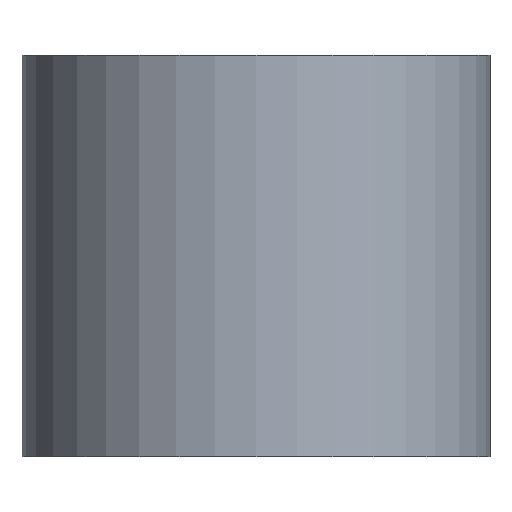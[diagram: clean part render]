
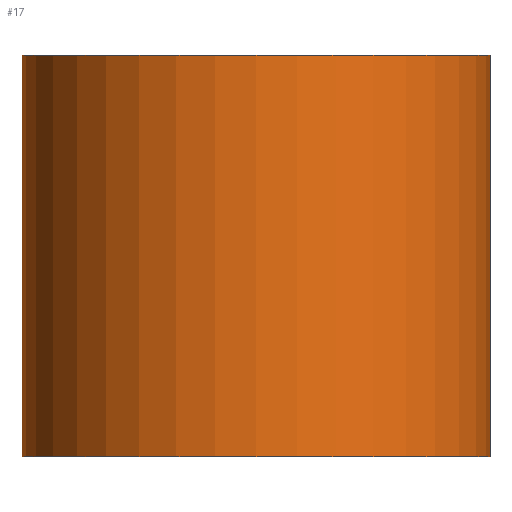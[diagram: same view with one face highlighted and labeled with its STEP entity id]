
A CAD part, front view. The second image highlights one B-rep face of the part: STEP entity #17.
In plain terms, the highlighted cylindrical face has radius 3.5 mm (diameter 7 mm), a full revolution.
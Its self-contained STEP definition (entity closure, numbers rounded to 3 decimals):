
#17 = ADVANCED_FACE('',(#18),#31,.T.);
#18 = FACE_BOUND('',#19,.T.);
#19 = EDGE_LOOP('',(#20,#54,#77,#104));
#20 = ORIENTED_EDGE('',*,*,#21,.F.);
#21 = EDGE_CURVE('',#22,#22,#24,.T.);
#22 = VERTEX_POINT('',#23);
#23 = CARTESIAN_POINT('',(3.5,0.,6.));
#24 = SURFACE_CURVE('',#25,(#30,#42),.PCURVE_S1.);
#25 = CIRCLE('',#26,3.5);
#26 = AXIS2_PLACEMENT_3D('',#27,#28,#29);
#27 = CARTESIAN_POINT('',(0.,0.,6.));
#28 = DIRECTION('',(0.,0.,1.));
#29 = DIRECTION('',(1.,0.,-0.));
#30 = PCURVE('',#31,#36);
#31 = CYLINDRICAL_SURFACE('',#32,3.5);
#32 = AXIS2_PLACEMENT_3D('',#33,#34,#35);
#33 = CARTESIAN_POINT('',(0.,0.,0.));
#34 = DIRECTION('',(0.,0.,1.));
#35 = DIRECTION('',(1.,0.,-0.));
#36 = DEFINITIONAL_REPRESENTATION('',(#37),#41);
#37 = LINE('',#38,#39);
#38 = CARTESIAN_POINT('',(0.,6.));
#39 = VECTOR('',#40,1.);
#40 = DIRECTION('',(1.,0.));
#41 = ( GEOMETRIC_REPRESENTATION_CONTEXT(2) 
PARAMETRIC_REPRESENTATION_CONTEXT() REPRESENTATION_CONTEXT('2D SPACE',''
  ) );
#42 = PCURVE('',#43,#48);
#43 = PLANE('',#44);
#44 = AXIS2_PLACEMENT_3D('',#45,#46,#47);
#45 = CARTESIAN_POINT('',(0.,0.,6.));
#46 = DIRECTION('',(0.,0.,1.));
#47 = DIRECTION('',(1.,0.,-0.));
#48 = DEFINITIONAL_REPRESENTATION('',(#49),#53);
#49 = CIRCLE('',#50,3.5);
#50 = AXIS2_PLACEMENT_2D('',#51,#52);
#51 = CARTESIAN_POINT('',(0.,0.));
#52 = DIRECTION('',(1.,0.));
#53 = ( GEOMETRIC_REPRESENTATION_CONTEXT(2) 
PARAMETRIC_REPRESENTATION_CONTEXT() REPRESENTATION_CONTEXT('2D SPACE',''
  ) );
#54 = ORIENTED_EDGE('',*,*,#55,.F.);
#55 = EDGE_CURVE('',#56,#22,#58,.T.);
#56 = VERTEX_POINT('',#57);
#57 = CARTESIAN_POINT('',(3.5,0.,0.));
#58 = SEAM_CURVE('',#59,(#63,#70),.PCURVE_S1.);
#59 = LINE('',#60,#61);
#60 = CARTESIAN_POINT('',(3.5,0.,0.));
#61 = VECTOR('',#62,1.);
#62 = DIRECTION('',(0.,0.,1.));
#63 = PCURVE('',#31,#64);
#64 = DEFINITIONAL_REPRESENTATION('',(#65),#69);
#65 = LINE('',#66,#67);
#66 = CARTESIAN_POINT('',(6.283,-0.));
#67 = VECTOR('',#68,1.);
#68 = DIRECTION('',(0.,1.));
#69 = ( GEOMETRIC_REPRESENTATION_CONTEXT(2) 
PARAMETRIC_REPRESENTATION_CONTEXT() REPRESENTATION_CONTEXT('2D SPACE',''
  ) );
#70 = PCURVE('',#31,#71);
#71 = DEFINITIONAL_REPRESENTATION('',(#72),#76);
#72 = LINE('',#73,#74);
#73 = CARTESIAN_POINT('',(0.,-0.));
#74 = VECTOR('',#75,1.);
#75 = DIRECTION('',(0.,1.));
#76 = ( GEOMETRIC_REPRESENTATION_CONTEXT(2) 
PARAMETRIC_REPRESENTATION_CONTEXT() REPRESENTATION_CONTEXT('2D SPACE',''
  ) );
#77 = ORIENTED_EDGE('',*,*,#78,.T.);
#78 = EDGE_CURVE('',#56,#56,#79,.T.);
#79 = SURFACE_CURVE('',#80,(#85,#92),.PCURVE_S1.);
#80 = CIRCLE('',#81,3.5);
#81 = AXIS2_PLACEMENT_3D('',#82,#83,#84);
#82 = CARTESIAN_POINT('',(0.,0.,0.));
#83 = DIRECTION('',(0.,0.,1.));
#84 = DIRECTION('',(1.,0.,-0.));
#85 = PCURVE('',#31,#86);
#86 = DEFINITIONAL_REPRESENTATION('',(#87),#91);
#87 = LINE('',#88,#89);
#88 = CARTESIAN_POINT('',(0.,0.));
#89 = VECTOR('',#90,1.);
#90 = DIRECTION('',(1.,0.));
#91 = ( GEOMETRIC_REPRESENTATION_CONTEXT(2) 
PARAMETRIC_REPRESENTATION_CONTEXT() REPRESENTATION_CONTEXT('2D SPACE',''
  ) );
#92 = PCURVE('',#93,#98);
#93 = PLANE('',#94);
#94 = AXIS2_PLACEMENT_3D('',#95,#96,#97);
#95 = CARTESIAN_POINT('',(0.,0.,0.));
#96 = DIRECTION('',(0.,0.,1.));
#97 = DIRECTION('',(1.,0.,-0.));
#98 = DEFINITIONAL_REPRESENTATION('',(#99),#103);
#99 = CIRCLE('',#100,3.5);
#100 = AXIS2_PLACEMENT_2D('',#101,#102);
#101 = CARTESIAN_POINT('',(0.,0.));
#102 = DIRECTION('',(1.,0.));
#103 = ( GEOMETRIC_REPRESENTATION_CONTEXT(2) 
PARAMETRIC_REPRESENTATION_CONTEXT() REPRESENTATION_CONTEXT('2D SPACE',''
  ) );
#104 = ORIENTED_EDGE('',*,*,#55,.T.);
